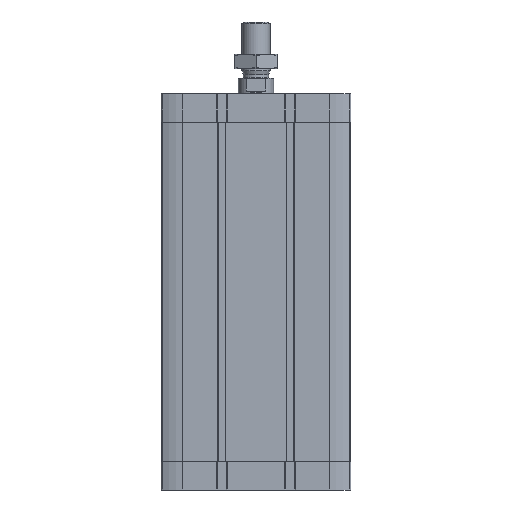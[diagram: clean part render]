
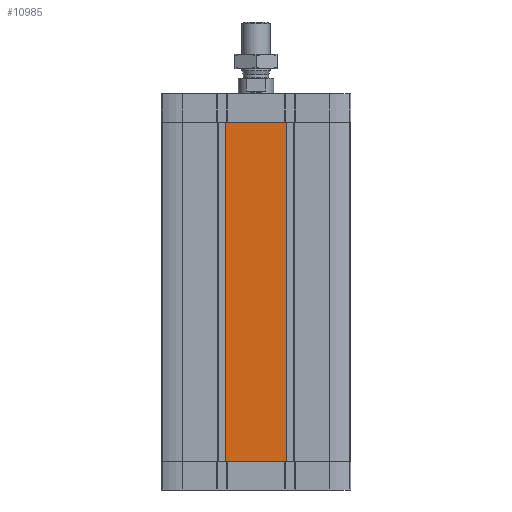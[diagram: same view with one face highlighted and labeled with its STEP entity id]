
A CAD part, front view. The second image highlights one B-rep face of the part: STEP entity #10985.
In plain terms, the highlighted planar face has unit normal (0, -1, 0).
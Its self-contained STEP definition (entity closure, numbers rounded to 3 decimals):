
#177 = EDGE_CURVE ( 'NONE', #17638, #8936, #4023, .T. ) ;
#458 = LINE ( 'NONE', #8723, #4863 ) ;
#658 = PLANE ( 'NONE',  #10067 ) ;
#1400 = DIRECTION ( 'NONE',  ( 1., 0., 0. ) ) ;
#1577 = EDGE_CURVE ( 'NONE', #8936, #5444, #17414, .T. ) ;
#1720 = ORIENTED_EDGE ( 'NONE', *, *, #14413, .F. ) ;
#2010 = CARTESIAN_POINT ( 'NONE',  ( -67., -67., -20. ) ) ;
#2036 = CARTESIAN_POINT ( 'NONE',  ( -67., -67., -261. ) ) ;
#2423 = DIRECTION ( 'NONE',  ( 0., 0., 1. ) ) ;
#2484 = CARTESIAN_POINT ( 'NONE',  ( 21.3, -67., -261. ) ) ;
#2656 = EDGE_CURVE ( 'NONE', #7720, #6422, #458, .T. ) ;
#2971 = LINE ( 'NONE', #4262, #8583 ) ;
#3049 = ORIENTED_EDGE ( 'NONE', *, *, #2656, .T. ) ;
#3185 = CARTESIAN_POINT ( 'NONE',  ( -21.3, -67., -20. ) ) ;
#3248 = VECTOR ( 'NONE', #12546, 1000. ) ;
#3526 = VECTOR ( 'NONE', #13341, 1000. ) ;
#3529 = CARTESIAN_POINT ( 'NONE',  ( -21.3, -67., -261. ) ) ;
#4023 = LINE ( 'NONE', #12463, #3248 ) ;
#4262 = CARTESIAN_POINT ( 'NONE',  ( -21.3, -67., -261. ) ) ;
#4518 = DIRECTION ( 'NONE',  ( 0., -1., 0. ) ) ;
#4863 = VECTOR ( 'NONE', #11660, 1000. ) ;
#5389 = VECTOR ( 'NONE', #14277, 1000. ) ;
#5444 = VERTEX_POINT ( 'NONE', #9662 ) ;
#5591 = VERTEX_POINT ( 'NONE', #2484 ) ;
#5658 = CARTESIAN_POINT ( 'NONE',  ( -67., -67., -261. ) ) ;
#5742 = VERTEX_POINT ( 'NONE', #10612 ) ;
#6422 = VERTEX_POINT ( 'NONE', #14305 ) ;
#6641 = CARTESIAN_POINT ( 'NONE',  ( 21.3, -67., -261. ) ) ;
#6965 = EDGE_CURVE ( 'NONE', #6422, #5742, #2971, .T. ) ;
#7125 = LINE ( 'NONE', #5658, #15630 ) ;
#7720 = VERTEX_POINT ( 'NONE', #14019 ) ;
#8267 = ORIENTED_EDGE ( 'NONE', *, *, #17634, .F. ) ;
#8309 = ORIENTED_EDGE ( 'NONE', *, *, #177, .F. ) ;
#8583 = VECTOR ( 'NONE', #1400, 1000. ) ;
#8723 = CARTESIAN_POINT ( 'NONE',  ( -67., -67., -261. ) ) ;
#8936 = VERTEX_POINT ( 'NONE', #17149 ) ;
#9288 = DIRECTION ( 'NONE',  ( 1., 0., 0. ) ) ;
#9412 = LINE ( 'NONE', #6641, #11840 ) ;
#9662 = CARTESIAN_POINT ( 'NONE',  ( 20.687, -67., -20. ) ) ;
#10067 = AXIS2_PLACEMENT_3D ( 'NONE', #2036, #4518, #13132 ) ;
#10565 = LINE ( 'NONE', #2010, #11262 ) ;
#10612 = CARTESIAN_POINT ( 'NONE',  ( 20.687, -67., -261. ) ) ;
#10874 = VERTEX_POINT ( 'NONE', #12779 ) ;
#10985 = ADVANCED_FACE ( 'NONE', ( #11680 ), #658, .T. ) ;
#11262 = VECTOR ( 'NONE', #9288, 1000. ) ;
#11660 = DIRECTION ( 'NONE',  ( 1., 0., 0. ) ) ;
#11680 = FACE_OUTER_BOUND ( 'NONE', #12939, .T. ) ;
#11840 = VECTOR ( 'NONE', #2423, 1000. ) ;
#11888 = LINE ( 'NONE', #3529, #3526 ) ;
#12463 = CARTESIAN_POINT ( 'NONE',  ( -67., -67., -20. ) ) ;
#12546 = DIRECTION ( 'NONE',  ( 1., 0., 0. ) ) ;
#12726 = DIRECTION ( 'NONE',  ( 1., 0., 0. ) ) ;
#12779 = CARTESIAN_POINT ( 'NONE',  ( 21.3, -67., -20. ) ) ;
#12939 = EDGE_LOOP ( 'NONE', ( #1720, #3049, #17632, #15064, #18105, #8267, #18020, #8309 ) ) ;
#13132 = DIRECTION ( 'NONE',  ( 0., 0., -1. ) ) ;
#13341 = DIRECTION ( 'NONE',  ( 0., 0., 1. ) ) ;
#14019 = CARTESIAN_POINT ( 'NONE',  ( -21.3, -67., -261. ) ) ;
#14277 = DIRECTION ( 'NONE',  ( 1., 0., 0. ) ) ;
#14305 = CARTESIAN_POINT ( 'NONE',  ( -20.687, -67., -261. ) ) ;
#14413 = EDGE_CURVE ( 'NONE', #7720, #17638, #11888, .T. ) ;
#15064 = ORIENTED_EDGE ( 'NONE', *, *, #15504, .T. ) ;
#15504 = EDGE_CURVE ( 'NONE', #5742, #5591, #7125, .T. ) ;
#15630 = VECTOR ( 'NONE', #12726, 1000. ) ;
#16066 = EDGE_CURVE ( 'NONE', #5591, #10874, #9412, .T. ) ;
#16251 = CARTESIAN_POINT ( 'NONE',  ( -21.3, -67., -20. ) ) ;
#17149 = CARTESIAN_POINT ( 'NONE',  ( -20.687, -67., -20. ) ) ;
#17414 = LINE ( 'NONE', #3185, #5389 ) ;
#17632 = ORIENTED_EDGE ( 'NONE', *, *, #6965, .T. ) ;
#17634 = EDGE_CURVE ( 'NONE', #5444, #10874, #10565, .T. ) ;
#17638 = VERTEX_POINT ( 'NONE', #16251 ) ;
#18020 = ORIENTED_EDGE ( 'NONE', *, *, #1577, .F. ) ;
#18105 = ORIENTED_EDGE ( 'NONE', *, *, #16066, .T. ) ;
